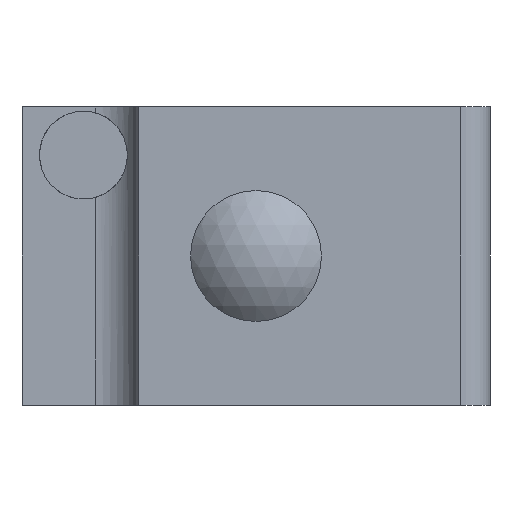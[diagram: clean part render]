
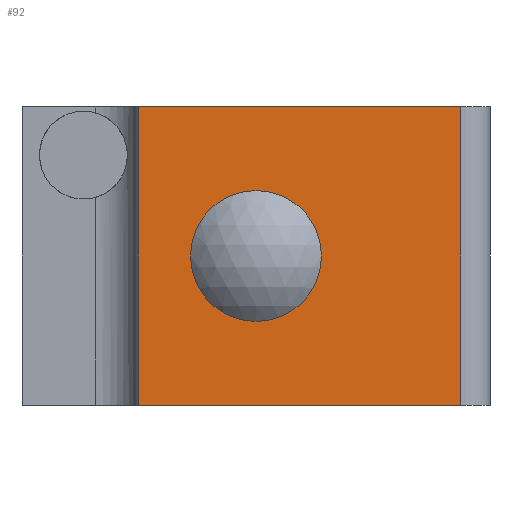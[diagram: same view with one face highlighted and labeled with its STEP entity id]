
A CAD part, front view. The second image highlights one B-rep face of the part: STEP entity #92.
In plain terms, the highlighted planar face has unit normal (0, -1, 0).
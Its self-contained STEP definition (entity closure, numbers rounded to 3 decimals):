
#92 = ADVANCED_FACE( '', ( #143, #144 ), #145, .T. );
#143 = FACE_BOUND( '', #213, .T. );
#144 = FACE_OUTER_BOUND( '', #214, .T. );
#145 = PLANE( '', #215 );
#213 = EDGE_LOOP( '', ( #368, #369 ) );
#214 = EDGE_LOOP( '', ( #370, #371, #372, #373 ) );
#215 = AXIS2_PLACEMENT_3D( '', #374, #375, #376 );
#368 = ORIENTED_EDGE( '', *, *, #515, .T. );
#369 = ORIENTED_EDGE( '', *, *, #516, .T. );
#370 = ORIENTED_EDGE( '', *, *, #534, .T. );
#371 = ORIENTED_EDGE( '', *, *, #537, .T. );
#372 = ORIENTED_EDGE( '', *, *, #538, .T. );
#373 = ORIENTED_EDGE( '', *, *, #539, .T. );
#374 = CARTESIAN_POINT( '', ( 12.9, -3., -8.55 ) );
#375 = DIRECTION( '', ( 0., -1., 0. ) );
#376 = DIRECTION( '', ( 1., 0., 0. ) );
#515 = EDGE_CURVE( '', #613, #614, #615, .T. );
#516 = EDGE_CURVE( '', #614, #613, #616, .T. );
#534 = EDGE_CURVE( '', #637, #641, #643, .T. );
#537 = EDGE_CURVE( '', #641, #646, #647, .T. );
#538 = EDGE_CURVE( '', #646, #648, #649, .T. );
#539 = EDGE_CURVE( '', #648, #637, #650, .T. );
#613 = VERTEX_POINT( '', #777 );
#614 = VERTEX_POINT( '', #778 );
#615 = CIRCLE( '', #779, 2.236 );
#616 = CIRCLE( '', #780, 2.236 );
#637 = VERTEX_POINT( '', #831 );
#641 = VERTEX_POINT( '', #837 );
#643 = LINE( '', #840, #841 );
#646 = VERTEX_POINT( '', #844 );
#647 = LINE( '', #845, #846 );
#648 = VERTEX_POINT( '', #847 );
#649 = LINE( '', #848, #849 );
#650 = LINE( '', #850, #851 );
#777 = CARTESIAN_POINT( '', ( 5.9, -3., -5.686 ) );
#778 = CARTESIAN_POINT( '', ( 5.9, -3., -1.214 ) );
#779 = AXIS2_PLACEMENT_3D( '', #960, #961, #962 );
#780 = AXIS2_PLACEMENT_3D( '', #963, #964, #965 );
#831 = CARTESIAN_POINT( '', ( 1.9, -3., 1.65 ) );
#837 = CARTESIAN_POINT( '', ( 1.9, -3., -8.55 ) );
#840 = CARTESIAN_POINT( '', ( 1.9, -3., 5.725 ) );
#841 = VECTOR( '', #998, 1. );
#844 = CARTESIAN_POINT( '', ( 12.9, -3., -8.55 ) );
#845 = CARTESIAN_POINT( '', ( -1.1, -3., -8.55 ) );
#846 = VECTOR( '', #1005, 1. );
#847 = CARTESIAN_POINT( '', ( 12.9, -3., 1.65 ) );
#848 = CARTESIAN_POINT( '', ( 12.9, -3., -8.55 ) );
#849 = VECTOR( '', #1006, 1. );
#850 = CARTESIAN_POINT( '', ( -1.1, -3., 1.65 ) );
#851 = VECTOR( '', #1007, 1. );
#960 = CARTESIAN_POINT( '', ( 5.9, -3., -3.45 ) );
#961 = DIRECTION( '', ( 0., 1., 0. ) );
#962 = DIRECTION( '', ( 0., 0., 1. ) );
#963 = CARTESIAN_POINT( '', ( 5.9, -3., -3.45 ) );
#964 = DIRECTION( '', ( 0., 1., 0. ) );
#965 = DIRECTION( '', ( 0., 0., 1. ) );
#998 = DIRECTION( '', ( 0., 0., -1. ) );
#1005 = DIRECTION( '', ( 1., 0., 0. ) );
#1006 = DIRECTION( '', ( 0., 0., 1. ) );
#1007 = DIRECTION( '', ( -1., 0., 0. ) );
